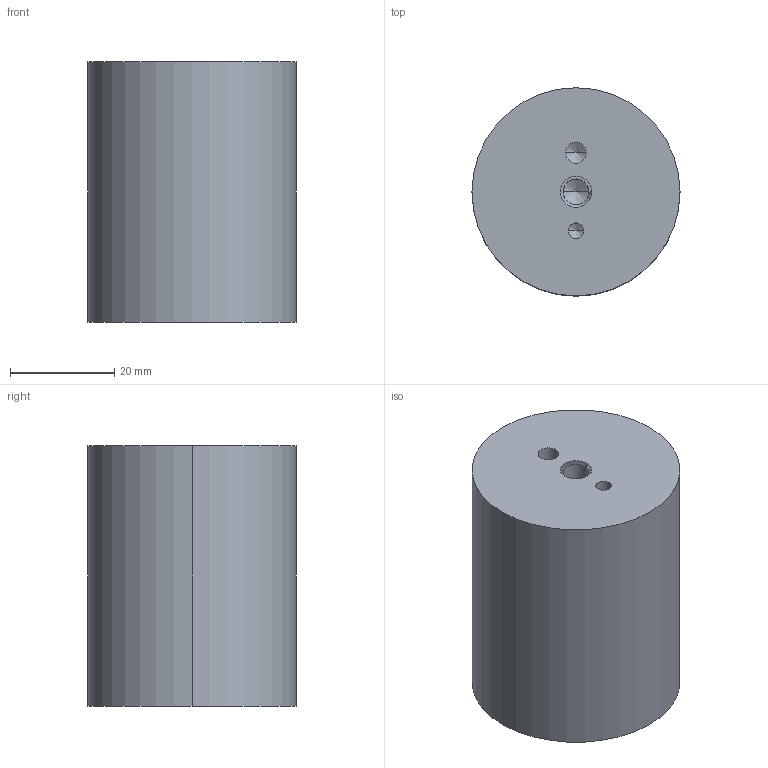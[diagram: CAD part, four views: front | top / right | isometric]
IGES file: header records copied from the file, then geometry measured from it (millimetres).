
Start section: 3D InterOp IGES (v. 2018 1.0.2), Spatial Corp. Copyright (c) 1999-2017.
Global section: file name: V91552-40-50.igs; native system: Spatial Corp.; preprocessor: 3D InterOp GENERIC/IGES 3.0; author: Noname; organization: Noname; date: 20191003.155358; units: metre
Bounding box: 40 x 40 x 50 mm (x, y, z)
Surface area: 9253.7 mm2 (no closed solid volume)
Topology: 0 solids, 0 shells, 21 faces, 86 edges, 80 vertices
Faces by surface type: revolution 18, extrusion 3
